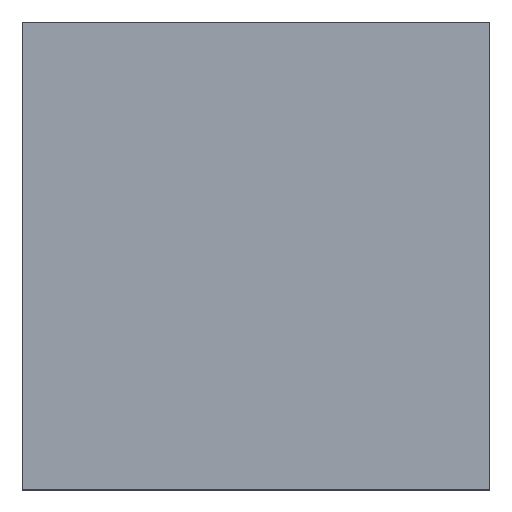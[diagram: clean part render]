
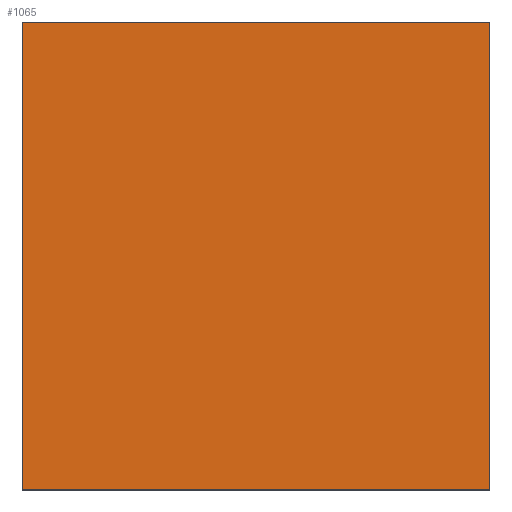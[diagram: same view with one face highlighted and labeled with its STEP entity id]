
A CAD part, top view. The second image highlights one B-rep face of the part: STEP entity #1065.
In plain terms, the highlighted planar face has unit normal (0, 0, 1).
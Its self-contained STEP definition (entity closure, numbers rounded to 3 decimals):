
#22 = EDGE_CURVE ( 'NONE', #432, #381, #445, .T. ) ;
#38 = VERTEX_POINT ( 'NONE', #212 ) ;
#78 = CARTESIAN_POINT ( 'NONE',  ( 104., 0., 22.5 ) ) ;
#108 = CARTESIAN_POINT ( 'NONE',  ( 0., 104., 22.5 ) ) ;
#121 = VECTOR ( 'NONE', #283, 1000. ) ;
#126 = CARTESIAN_POINT ( 'NONE',  ( 0., 104., 22.5 ) ) ;
#148 = EDGE_CURVE ( 'NONE', #381, #983, #295, .T. ) ;
#194 = DIRECTION ( 'NONE',  ( -1., 0., 0. ) ) ;
#212 = CARTESIAN_POINT ( 'NONE',  ( 104., 104., 22.5 ) ) ;
#283 = DIRECTION ( 'NONE',  ( 1., 0., 0. ) ) ;
#295 = LINE ( 'NONE', #414, #121 ) ;
#297 = PLANE ( 'NONE',  #500 ) ;
#321 = ORIENTED_EDGE ( 'NONE', *, *, #148, .T. ) ;
#327 = CARTESIAN_POINT ( 'NONE',  ( 0., 0., 22.5 ) ) ;
#381 = VERTEX_POINT ( 'NONE', #400 ) ;
#397 = EDGE_LOOP ( 'NONE', ( #662, #321, #1295, #789 ) ) ;
#400 = CARTESIAN_POINT ( 'NONE',  ( 0., 0., 22.5 ) ) ;
#414 = CARTESIAN_POINT ( 'NONE',  ( 0., 0., 22.5 ) ) ;
#432 = VERTEX_POINT ( 'NONE', #126 ) ;
#445 = LINE ( 'NONE', #1018, #1237 ) ;
#500 = AXIS2_PLACEMENT_3D ( 'NONE', #327, #658, #194 ) ;
#658 = DIRECTION ( 'NONE',  ( 0., 0., -1. ) ) ;
#662 = ORIENTED_EDGE ( 'NONE', *, *, #22, .T. ) ;
#707 = LINE ( 'NONE', #108, #1188 ) ;
#723 = EDGE_CURVE ( 'NONE', #983, #38, #991, .T. ) ;
#789 = ORIENTED_EDGE ( 'NONE', *, *, #830, .T. ) ;
#830 = EDGE_CURVE ( 'NONE', #38, #432, #707, .T. ) ;
#869 = FACE_OUTER_BOUND ( 'NONE', #397, .T. ) ;
#904 = DIRECTION ( 'NONE',  ( -1., 0., 0. ) ) ;
#983 = VERTEX_POINT ( 'NONE', #1302 ) ;
#991 = LINE ( 'NONE', #78, #1158 ) ;
#997 = DIRECTION ( 'NONE',  ( 0., -1., 0. ) ) ;
#1018 = CARTESIAN_POINT ( 'NONE',  ( 0., 0., 22.5 ) ) ;
#1065 = ADVANCED_FACE ( 'NONE', ( #869 ), #297, .F. ) ;
#1158 = VECTOR ( 'NONE', #1437, 1000. ) ;
#1188 = VECTOR ( 'NONE', #904, 1000. ) ;
#1237 = VECTOR ( 'NONE', #997, 1000. ) ;
#1295 = ORIENTED_EDGE ( 'NONE', *, *, #723, .T. ) ;
#1302 = CARTESIAN_POINT ( 'NONE',  ( 104., 0., 22.5 ) ) ;
#1437 = DIRECTION ( 'NONE',  ( 0., 1., 0. ) ) ;
